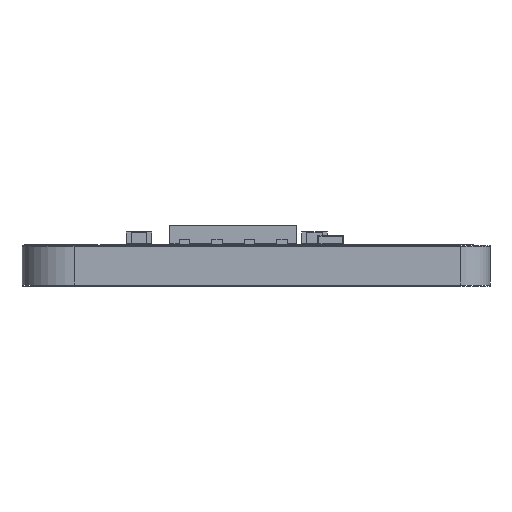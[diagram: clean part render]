
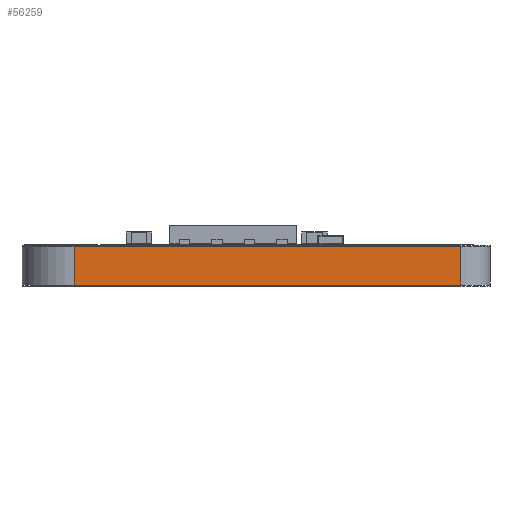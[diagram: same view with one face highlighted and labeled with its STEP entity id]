
A CAD part, left-side view. The second image highlights one B-rep face of the part: STEP entity #56259.
In plain terms, the highlighted planar face has unit normal (-1, 0, 0).
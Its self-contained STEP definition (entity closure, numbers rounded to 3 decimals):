
#55688 = VERTEX_POINT('',#55689);
#55689 = CARTESIAN_POINT('',(116.538,-105.768,0.));
#55696 = EDGE_CURVE('',#55697,#55688,#55699,.T.);
#55697 = VERTEX_POINT('',#55698);
#55698 = CARTESIAN_POINT('',(116.538,-120.881,0.));
#55699 = LINE('',#55700,#55701);
#55700 = CARTESIAN_POINT('',(116.538,-120.881,0.));
#55701 = VECTOR('',#55702,1.);
#55702 = DIRECTION('',(0.,1.,0.));
#55960 = VERTEX_POINT('',#55961);
#55961 = CARTESIAN_POINT('',(116.538,-105.768,1.51));
#55968 = EDGE_CURVE('',#55969,#55960,#55971,.T.);
#55969 = VERTEX_POINT('',#55970);
#55970 = CARTESIAN_POINT('',(116.538,-120.881,1.51));
#55971 = LINE('',#55972,#55973);
#55972 = CARTESIAN_POINT('',(116.538,-120.881,1.51));
#55973 = VECTOR('',#55974,1.);
#55974 = DIRECTION('',(0.,1.,0.));
#56229 = EDGE_CURVE('',#55688,#55960,#56230,.T.);
#56230 = LINE('',#56231,#56232);
#56231 = CARTESIAN_POINT('',(116.538,-105.768,0.));
#56232 = VECTOR('',#56233,1.);
#56233 = DIRECTION('',(0.,0.,1.));
#56259 = ADVANCED_FACE('',(#56260),#56271,.T.);
#56260 = FACE_BOUND('',#56261,.T.);
#56261 = EDGE_LOOP('',(#56262,#56268,#56269,#56270));
#56262 = ORIENTED_EDGE('',*,*,#56263,.T.);
#56263 = EDGE_CURVE('',#55697,#55969,#56264,.T.);
#56264 = LINE('',#56265,#56266);
#56265 = CARTESIAN_POINT('',(116.538,-120.881,0.));
#56266 = VECTOR('',#56267,1.);
#56267 = DIRECTION('',(0.,0.,1.));
#56268 = ORIENTED_EDGE('',*,*,#55968,.T.);
#56269 = ORIENTED_EDGE('',*,*,#56229,.F.);
#56270 = ORIENTED_EDGE('',*,*,#55696,.F.);
#56271 = PLANE('',#56272);
#56272 = AXIS2_PLACEMENT_3D('',#56273,#56274,#56275);
#56273 = CARTESIAN_POINT('',(116.538,-120.881,0.));
#56274 = DIRECTION('',(-1.,0.,0.));
#56275 = DIRECTION('',(0.,1.,0.));
